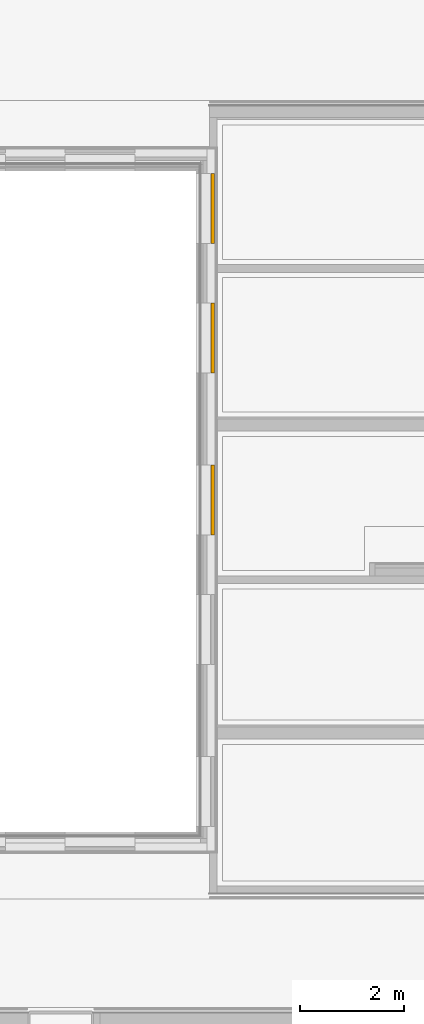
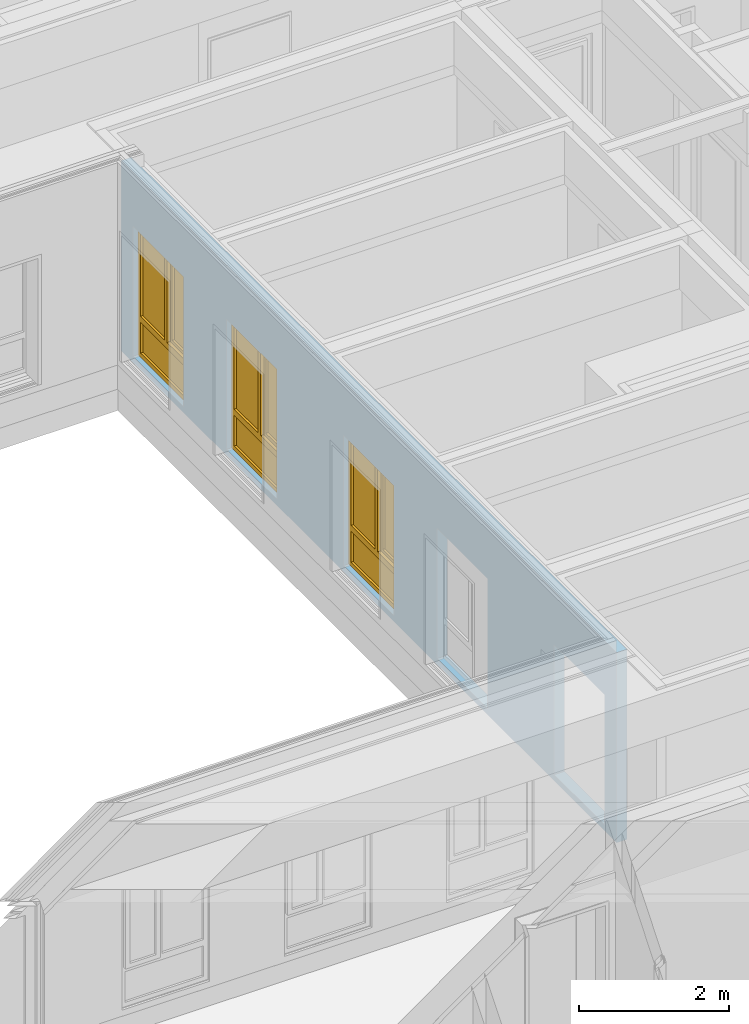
# One storey, part 133 of 207: 3 windows, 5 openings, plus 1 element that does not belong to this part.
"""IFC4 building model written with IfcOpenShell, lengths in metres."""

from ifc_helpers import new_model, entity, si_unit, converted_unit, derived_unit, frame, frame_2d, origin, origin_with_axes, place, context, subcontext, project, spatial, polyline, rectangle, outline, extrude, closed_shell, open_shell, surface_model, source, transform, mapped, material, element, fill, save


model = new_model("IFC4")

# Units and contexts
model_context = context("Model", 3, precision=1e-05, world=origin())
body_context = subcontext(model_context, "Body", "Model", "MODEL_VIEW")
ifc_project = project(units=[si_unit("LENGTHUNIT", "METRE"), si_unit("AREAUNIT", "SQUARE_METRE"), si_unit("VOLUMEUNIT", "CUBIC_METRE"), si_unit("MASSUNIT", "GRAM", prefix="KILO"), converted_unit("PLANEANGLEUNIT", "DEGREE", entity("IfcPlaneAngleMeasure", 0.0174532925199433), si_unit("PLANEANGLEUNIT", "RADIAN"), dimensions=[0, 0, 0, 0, 0, 0, 0]), derived_unit("THERMALTRANSMITTANCEUNIT", [(si_unit("POWERUNIT", "WATT"), 1), (si_unit("THERMODYNAMICTEMPERATUREUNIT", "KELVIN"), -1), (si_unit("LENGTHUNIT", "METRE"), -2)]), derived_unit("VOLUMETRICFLOWRATEUNIT", [(si_unit("LENGTHUNIT", "METRE"), 3), (converted_unit("TIMEUNIT", "hour", entity("IfcTimeMeasure", 3600.0), si_unit("TIMEUNIT", "SECOND"), dimensions=[0, 0, 1, 0, 0, 0, 0]), -1), (si_unit("LENGTHUNIT", "METRE"), -1)])], contexts=[model_context])

# Site, building, storey
site_placement = place(None, origin())
site = spatial("IfcSite", under=ifc_project, at=site_placement, Name="Psychiatrie Neubau Wunstorf", CompositionType="ELEMENT")
building_placement = place(site_placement, origin())
building = spatial("IfcBuilding", under=site, at=building_placement, Name="Neubau H2 Stationsgebäude", CompositionType="ELEMENT")
storey_placement = place(building_placement, frame((0.0, 0.0, -0.2)))
storey = spatial("IfcBuildingStorey", under=building, at=storey_placement, Name="H2 Ebene 0", CompositionType="ELEMENT", Elevation=-0.2)

# Wall, openings, windows
ifc_material = material(Name="WA-HD")
wall_placement = place(storey_placement, frame((90.325, 8.61000000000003, 0.5), z_axis=(0.0, 0.0, 1.0), x_axis=(0.0, 1.0, 0.0)))
wall = element("IfcWall", 1, at=wall_placement, inside=storey, material=ifc_material, context=body_context, shape_type="SweptSolid", body=[
    extrude(rectangle(XDim=13.23, YDim=0.16, at=frame_2d((6.615, 0.08), x_axis=(1.0, 0.0))), origin_with_axes(), (0.0, 0.0, 1.0), 3.1),
])
opening_1_placement = place(wall_placement, frame((12.9146, 0.16, 0.1), z_axis=(0.0, -1.0, 0.0), x_axis=(0.0, 0.0, 1.0)))
opening_1 = element("IfcOpeningElement", 2, at=opening_1_placement, cuts=wall, Name="Fensteröffnung", ObjectType="Opening", context=body_context, shape_type="SweptSolid", body=[
    extrude(outline(polyline([(2.12, 1.35), (2.12, 0.0), (0.0, 0.0), (0.0, 1.35), (2.12, 1.35)])), origin_with_axes(), (0.0, 0.0, 1.0), 0.16),
])
opening_2_placement = place(wall_placement, frame((10.4146, 0.16, 0.1), z_axis=(0.0, -1.0, 0.0), x_axis=(0.0, 0.0, 1.0)))
opening_2 = element("IfcOpeningElement", 3, at=opening_2_placement, cuts=wall, Name="Fensteröffnung", ObjectType="Opening", context=body_context, shape_type="SweptSolid", body=[
    extrude(outline(polyline([(2.12, 1.35), (2.12, 0.0), (0.0, 0.0), (0.0, 1.35), (2.12, 1.35)])), origin_with_axes(), (0.0, 0.0, 1.0), 0.16),
])
opening_3_placement = place(wall_placement, frame((7.28999999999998, 0.16, 0.1), z_axis=(0.0, -1.0, 0.0), x_axis=(0.0, 0.0, 1.0)))
opening_3 = element("IfcOpeningElement", 4, at=opening_3_placement, cuts=wall, Name="Fensteröffnung", ObjectType="Opening", context=body_context, shape_type="SweptSolid", body=[
    extrude(outline(polyline([(2.12, 1.35), (2.12, 0.0), (0.0, 0.0), (0.0, 1.35), (2.12, 1.35)])), origin_with_axes(), (0.0, 0.0, 1.0), 0.16),
])
opening_4_placement = place(wall_placement, frame((4.78999999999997, 0.16, 0.1), z_axis=(0.0, -1.0, 0.0), x_axis=(0.0, 0.0, 1.0)))
element("IfcOpeningElement", 5, at=opening_4_placement, cuts=wall, Name="Fensteröffnung", ObjectType="Opening", context=body_context, shape_type="SweptSolid", body=[
    extrude(outline(polyline([(2.12, 1.35), (2.12, 0.0), (0.0, 0.0), (0.0, 1.35), (2.12, 1.35)])), origin_with_axes(), (0.0, 0.0, 1.0), 0.16),
])
opening_5_placement = place(wall_placement, frame((1.66569999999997, 0.16, 0.1), z_axis=(0.0, -1.0, 0.0), x_axis=(0.0, 0.0, 1.0)))
element("IfcOpeningElement", 6, at=opening_5_placement, cuts=wall, Name="Fensteröffnung", ObjectType="Opening", context=body_context, shape_type="SweptSolid", body=[
    extrude(outline(polyline([(2.12, 1.35), (2.12, 0.0), (0.0, 0.0), (0.0, 1.35), (2.12, 1.35)])), origin_with_axes(), (0.0, 0.0, 1.0), 0.16),
])
shared_shape_1 = source(origin_with_axes(), body_context, "Body", "SurfaceModel", [
    surface_model("IfcShellBasedSurfaceModel", [(0.0, 0.0, 2.12), (0.0699999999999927, 0.0, 2.12), (0.0699999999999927, 0.0, 0.0), (0.0, 0.0, 0.0), (0.0, 0.0700000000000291, 0.0), (0.0699999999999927, 0.0700000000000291, 0.0), (0.0699999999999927, 0.0700000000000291, 2.12), (0.0, 0.0700000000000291, 2.12)], [closed_shell([[[0, 1, 2, 3]], [[4, 5, 6, 7]], [[3, 4, 7, 0]], [[2, 5, 4, 3]], [[1, 6, 5, 2]], [[0, 7, 6, 1]]], orient=[[False], [False], [False], [False], [False], [False]])]),
    surface_model("IfcShellBasedSurfaceModel", [(1.27999999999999, 0.0, 2.12), (1.34999999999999, 0.0, 2.12), (1.34999999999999, 0.0, 0.0), (1.27999999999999, 0.0, 0.0), (1.27999999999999, 0.0700000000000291, 0.0), (1.34999999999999, 0.0700000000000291, 0.0), (1.34999999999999, 0.0700000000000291, 2.12), (1.27999999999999, 0.0700000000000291, 2.12)], [closed_shell([[[0, 1, 2, 3]], [[4, 5, 6, 7]], [[3, 4, 7, 0]], [[2, 5, 4, 3]], [[1, 6, 5, 2]], [[0, 7, 6, 1]]], orient=[[False], [False], [False], [False], [False], [False]])]),
    surface_model("IfcShellBasedSurfaceModel", [(0.0699999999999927, 0.0, 0.07), (1.27999999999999, 0.0, 0.07), (1.27999999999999, 0.0, 0.0), (0.0699999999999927, 0.0, 0.0), (0.0699999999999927, 0.0700000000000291, 0.0), (1.27999999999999, 0.0700000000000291, 0.0), (1.27999999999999, 0.0700000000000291, 0.07), (0.0699999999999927, 0.0700000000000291, 0.07)], [closed_shell([[[0, 1, 2, 3]], [[4, 5, 6, 7]], [[3, 4, 7, 0]], [[2, 5, 4, 3]], [[1, 6, 5, 2]], [[0, 7, 6, 1]]], orient=[[False], [False], [False], [False], [False], [False]])]),
    surface_model("IfcShellBasedSurfaceModel", [(0.0699999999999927, 0.0, 2.12), (1.27999999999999, 0.0, 2.12), (1.27999999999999, 0.0, 2.05), (0.0699999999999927, 0.0, 2.05), (0.0699999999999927, 0.0700000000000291, 2.05), (1.27999999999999, 0.0700000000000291, 2.05), (1.27999999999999, 0.0700000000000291, 2.12), (0.0699999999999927, 0.0700000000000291, 2.12)], [closed_shell([[[0, 1, 2, 3]], [[4, 5, 6, 7]], [[3, 4, 7, 0]], [[2, 5, 4, 3]], [[1, 6, 5, 2]], [[0, 7, 6, 1]]], orient=[[False], [False], [False], [False], [False], [False]])]),
    surface_model("IfcShellBasedSurfaceModel", [(0.0699999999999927, 0.0, 0.67), (1.27999999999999, 0.0, 0.67), (1.27999999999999, 0.0, 0.57), (0.0699999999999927, 0.0, 0.57), (0.0699999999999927, 0.0700000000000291, 0.57), (1.27999999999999, 0.0700000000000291, 0.57), (1.27999999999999, 0.0700000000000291, 0.67), (0.0699999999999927, 0.0700000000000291, 0.67)], [closed_shell([[[0, 1, 2, 3]], [[4, 5, 6, 7]], [[3, 4, 7, 0]], [[2, 5, 4, 3]], [[1, 6, 5, 2]], [[0, 7, 6, 1]]], orient=[[False], [False], [False], [False], [False], [False]])]),
    surface_model("IfcShellBasedSurfaceModel", [(0.0699999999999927, 0.0350000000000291, 0.07), (0.0699999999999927, 0.0350000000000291, 0.57), (1.27999999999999, 0.0350000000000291, 0.57), (1.27999999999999, 0.0350000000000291, 0.07)], [open_shell([[[0, 1, 2, 3]]], orient=[[False]])]),
    surface_model("IfcShellBasedSurfaceModel", [(0.569999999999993, 0.0, 2.05), (0.639999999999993, 0.0, 2.05), (0.639999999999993, 0.0, 0.67), (0.569999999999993, 0.0, 0.67), (0.569999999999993, 0.0700000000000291, 0.67), (0.639999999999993, 0.0700000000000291, 0.67), (0.639999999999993, 0.0700000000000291, 2.05), (0.569999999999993, 0.0700000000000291, 2.05)], [closed_shell([[[0, 1, 2, 3]], [[4, 5, 6, 7]], [[3, 4, 7, 0]], [[2, 5, 4, 3]], [[1, 6, 5, 2]], [[0, 7, 6, 1]]], orient=[[False], [False], [False], [False], [False], [False]])]),
    surface_model("IfcShellBasedSurfaceModel", [(0.0499999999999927, -0.0499999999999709, 2.07), (0.119999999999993, -0.0499999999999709, 2.07), (0.119999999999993, -0.0499999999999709, 0.65), (0.0499999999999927, -0.0499999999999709, 0.65), (0.0499999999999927, 0.0200000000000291, 0.65), (0.119999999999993, 0.0200000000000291, 0.65), (0.119999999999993, 0.0200000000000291, 2.07), (0.0499999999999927, 0.0200000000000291, 2.07)], [closed_shell([[[0, 1, 2, 3]], [[4, 5, 6, 7]], [[3, 4, 7, 0]], [[2, 5, 4, 3]], [[1, 6, 5, 2]], [[0, 7, 6, 1]]], orient=[[False], [False], [False], [False], [False], [False]])]),
    surface_model("IfcShellBasedSurfaceModel", [(0.519999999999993, -0.0499999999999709, 2.07), (0.589999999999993, -0.0499999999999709, 2.07), (0.589999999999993, -0.0499999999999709, 0.65), (0.519999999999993, -0.0499999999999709, 0.65), (0.519999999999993, 0.0200000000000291, 0.65), (0.589999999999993, 0.0200000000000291, 0.65), (0.589999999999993, 0.0200000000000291, 2.07), (0.519999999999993, 0.0200000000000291, 2.07)], [closed_shell([[[0, 1, 2, 3]], [[4, 5, 6, 7]], [[3, 4, 7, 0]], [[2, 5, 4, 3]], [[1, 6, 5, 2]], [[0, 7, 6, 1]]], orient=[[False], [False], [False], [False], [False], [False]])]),
    surface_model("IfcShellBasedSurfaceModel", [(0.119999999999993, -0.0499999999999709, 0.72), (0.519999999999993, -0.0499999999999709, 0.72), (0.519999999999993, -0.0499999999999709, 0.65), (0.119999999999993, -0.0499999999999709, 0.65), (0.119999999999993, 0.0200000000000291, 0.65), (0.519999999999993, 0.0200000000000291, 0.65), (0.519999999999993, 0.0200000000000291, 0.72), (0.119999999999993, 0.0200000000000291, 0.72)], [closed_shell([[[0, 1, 2, 3]], [[4, 5, 6, 7]], [[3, 4, 7, 0]], [[2, 5, 4, 3]], [[1, 6, 5, 2]], [[0, 7, 6, 1]]], orient=[[False], [False], [False], [False], [False], [False]])]),
    surface_model("IfcShellBasedSurfaceModel", [(0.119999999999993, -0.0499999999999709, 2.07), (0.519999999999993, -0.0499999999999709, 2.07), (0.519999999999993, -0.0499999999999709, 2.0), (0.119999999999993, -0.0499999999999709, 2.0), (0.119999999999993, 0.0200000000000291, 2.0), (0.519999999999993, 0.0200000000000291, 2.0), (0.519999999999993, 0.0200000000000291, 2.07), (0.119999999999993, 0.0200000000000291, 2.07)], [closed_shell([[[0, 1, 2, 3]], [[4, 5, 6, 7]], [[3, 4, 7, 0]], [[2, 5, 4, 3]], [[1, 6, 5, 2]], [[0, 7, 6, 1]]], orient=[[False], [False], [False], [False], [False], [False]])]),
    surface_model("IfcShellBasedSurfaceModel", [(0.639999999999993, 0.0350000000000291, 0.67), (0.639999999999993, 0.0350000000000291, 2.05), (1.27999999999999, 0.0350000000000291, 2.05), (1.27999999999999, 0.0350000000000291, 0.67)], [open_shell([[[0, 1, 2, 3]]], orient=[[False]])]),
    surface_model("IfcShellBasedSurfaceModel", [(0.119999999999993, -0.0149999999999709, 0.72), (0.119999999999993, -0.0149999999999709, 2.0), (0.519999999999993, -0.0149999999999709, 2.0), (0.519999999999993, -0.0149999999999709, 0.72)], [open_shell([[[0, 1, 2, 3]]], orient=[[False]])]),
])
window_1_placement = place(opening_1_placement, frame((0.0, 1.35, 0.146), z_axis=(1.0, 0.0, 0.0), x_axis=(0.0, -1.0, 0.0)))
window_1 = element("IfcWindow", 7, at=window_1_placement, inside=storey, Name="Fenster", OverallHeight=2.12, OverallWidth=1.35, PartitioningType="USERDEFINED", PredefinedType="WINDOW", context=body_context, shape_type="MappedRepresentation", body=[
    mapped(shared_shape_1, transform((0.0, 0.0, 0.0), x_axis=(1.0, 0.0, 0.0), y_axis=(0.0, 1.0, 0.0), z_axis=(0.0, 0.0, 1.0), scale=1.0)),
])
fill(opening_1, window_1)
shared_shape_2 = source(origin_with_axes(), body_context, "Body", "SurfaceModel", [
    surface_model("IfcShellBasedSurfaceModel", [(0.0, 0.0, 2.12), (0.0699999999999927, 0.0, 2.12), (0.0699999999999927, 0.0, 0.0), (0.0, 0.0, 0.0), (0.0, 0.0700000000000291, 0.0), (0.0699999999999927, 0.0700000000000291, 0.0), (0.0699999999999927, 0.0700000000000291, 2.12), (0.0, 0.0700000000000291, 2.12)], [closed_shell([[[0, 1, 2, 3]], [[4, 5, 6, 7]], [[3, 4, 7, 0]], [[2, 5, 4, 3]], [[1, 6, 5, 2]], [[0, 7, 6, 1]]], orient=[[False], [False], [False], [False], [False], [False]])]),
    surface_model("IfcShellBasedSurfaceModel", [(1.27999999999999, 0.0, 2.12), (1.34999999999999, 0.0, 2.12), (1.34999999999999, 0.0, 0.0), (1.27999999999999, 0.0, 0.0), (1.27999999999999, 0.0700000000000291, 0.0), (1.34999999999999, 0.0700000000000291, 0.0), (1.34999999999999, 0.0700000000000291, 2.12), (1.27999999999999, 0.0700000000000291, 2.12)], [closed_shell([[[0, 1, 2, 3]], [[4, 5, 6, 7]], [[3, 4, 7, 0]], [[2, 5, 4, 3]], [[1, 6, 5, 2]], [[0, 7, 6, 1]]], orient=[[False], [False], [False], [False], [False], [False]])]),
    surface_model("IfcShellBasedSurfaceModel", [(0.0699999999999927, 0.0, 0.07), (1.27999999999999, 0.0, 0.07), (1.27999999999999, 0.0, 0.0), (0.0699999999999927, 0.0, 0.0), (0.0699999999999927, 0.0700000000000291, 0.0), (1.27999999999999, 0.0700000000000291, 0.0), (1.27999999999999, 0.0700000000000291, 0.07), (0.0699999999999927, 0.0700000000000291, 0.07)], [closed_shell([[[0, 1, 2, 3]], [[4, 5, 6, 7]], [[3, 4, 7, 0]], [[2, 5, 4, 3]], [[1, 6, 5, 2]], [[0, 7, 6, 1]]], orient=[[False], [False], [False], [False], [False], [False]])]),
    surface_model("IfcShellBasedSurfaceModel", [(0.0699999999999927, 0.0, 2.12), (1.27999999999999, 0.0, 2.12), (1.27999999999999, 0.0, 2.05), (0.0699999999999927, 0.0, 2.05), (0.0699999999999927, 0.0700000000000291, 2.05), (1.27999999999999, 0.0700000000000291, 2.05), (1.27999999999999, 0.0700000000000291, 2.12), (0.0699999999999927, 0.0700000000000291, 2.12)], [closed_shell([[[0, 1, 2, 3]], [[4, 5, 6, 7]], [[3, 4, 7, 0]], [[2, 5, 4, 3]], [[1, 6, 5, 2]], [[0, 7, 6, 1]]], orient=[[False], [False], [False], [False], [False], [False]])]),
    surface_model("IfcShellBasedSurfaceModel", [(0.0699999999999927, 0.0, 0.67), (1.27999999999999, 0.0, 0.67), (1.27999999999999, 0.0, 0.57), (0.0699999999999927, 0.0, 0.57), (0.0699999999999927, 0.0700000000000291, 0.57), (1.27999999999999, 0.0700000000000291, 0.57), (1.27999999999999, 0.0700000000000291, 0.67), (0.0699999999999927, 0.0700000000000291, 0.67)], [closed_shell([[[0, 1, 2, 3]], [[4, 5, 6, 7]], [[3, 4, 7, 0]], [[2, 5, 4, 3]], [[1, 6, 5, 2]], [[0, 7, 6, 1]]], orient=[[False], [False], [False], [False], [False], [False]])]),
    surface_model("IfcShellBasedSurfaceModel", [(0.0699999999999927, 0.0350000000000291, 0.07), (0.0699999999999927, 0.0350000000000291, 0.57), (1.27999999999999, 0.0350000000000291, 0.57), (1.27999999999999, 0.0350000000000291, 0.07)], [open_shell([[[0, 1, 2, 3]]], orient=[[False]])]),
    surface_model("IfcShellBasedSurfaceModel", [(0.569999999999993, 0.0, 2.05), (0.639999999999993, 0.0, 2.05), (0.639999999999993, 0.0, 0.67), (0.569999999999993, 0.0, 0.67), (0.569999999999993, 0.0700000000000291, 0.67), (0.639999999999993, 0.0700000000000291, 0.67), (0.639999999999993, 0.0700000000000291, 2.05), (0.569999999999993, 0.0700000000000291, 2.05)], [closed_shell([[[0, 1, 2, 3]], [[4, 5, 6, 7]], [[3, 4, 7, 0]], [[2, 5, 4, 3]], [[1, 6, 5, 2]], [[0, 7, 6, 1]]], orient=[[False], [False], [False], [False], [False], [False]])]),
    surface_model("IfcShellBasedSurfaceModel", [(0.0499999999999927, -0.0499999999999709, 2.07), (0.119999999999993, -0.0499999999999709, 2.07), (0.119999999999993, -0.0499999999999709, 0.65), (0.0499999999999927, -0.0499999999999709, 0.65), (0.0499999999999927, 0.0200000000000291, 0.65), (0.119999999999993, 0.0200000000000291, 0.65), (0.119999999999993, 0.0200000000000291, 2.07), (0.0499999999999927, 0.0200000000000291, 2.07)], [closed_shell([[[0, 1, 2, 3]], [[4, 5, 6, 7]], [[3, 4, 7, 0]], [[2, 5, 4, 3]], [[1, 6, 5, 2]], [[0, 7, 6, 1]]], orient=[[False], [False], [False], [False], [False], [False]])]),
    surface_model("IfcShellBasedSurfaceModel", [(0.519999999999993, -0.0499999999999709, 2.07), (0.589999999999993, -0.0499999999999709, 2.07), (0.589999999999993, -0.0499999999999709, 0.65), (0.519999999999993, -0.0499999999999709, 0.65), (0.519999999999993, 0.0200000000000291, 0.65), (0.589999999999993, 0.0200000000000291, 0.65), (0.589999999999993, 0.0200000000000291, 2.07), (0.519999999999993, 0.0200000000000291, 2.07)], [closed_shell([[[0, 1, 2, 3]], [[4, 5, 6, 7]], [[3, 4, 7, 0]], [[2, 5, 4, 3]], [[1, 6, 5, 2]], [[0, 7, 6, 1]]], orient=[[False], [False], [False], [False], [False], [False]])]),
    surface_model("IfcShellBasedSurfaceModel", [(0.119999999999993, -0.0499999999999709, 0.72), (0.519999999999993, -0.0499999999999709, 0.72), (0.519999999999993, -0.0499999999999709, 0.65), (0.119999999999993, -0.0499999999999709, 0.65), (0.119999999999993, 0.0200000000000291, 0.65), (0.519999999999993, 0.0200000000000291, 0.65), (0.519999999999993, 0.0200000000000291, 0.72), (0.119999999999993, 0.0200000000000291, 0.72)], [closed_shell([[[0, 1, 2, 3]], [[4, 5, 6, 7]], [[3, 4, 7, 0]], [[2, 5, 4, 3]], [[1, 6, 5, 2]], [[0, 7, 6, 1]]], orient=[[False], [False], [False], [False], [False], [False]])]),
    surface_model("IfcShellBasedSurfaceModel", [(0.119999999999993, -0.0499999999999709, 2.07), (0.519999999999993, -0.0499999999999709, 2.07), (0.519999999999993, -0.0499999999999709, 2.0), (0.119999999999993, -0.0499999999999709, 2.0), (0.119999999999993, 0.0200000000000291, 2.0), (0.519999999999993, 0.0200000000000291, 2.0), (0.519999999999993, 0.0200000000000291, 2.07), (0.119999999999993, 0.0200000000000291, 2.07)], [closed_shell([[[0, 1, 2, 3]], [[4, 5, 6, 7]], [[3, 4, 7, 0]], [[2, 5, 4, 3]], [[1, 6, 5, 2]], [[0, 7, 6, 1]]], orient=[[False], [False], [False], [False], [False], [False]])]),
    surface_model("IfcShellBasedSurfaceModel", [(0.639999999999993, 0.0350000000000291, 0.67), (0.639999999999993, 0.0350000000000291, 2.05), (1.27999999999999, 0.0350000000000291, 2.05), (1.27999999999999, 0.0350000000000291, 0.67)], [open_shell([[[0, 1, 2, 3]]], orient=[[False]])]),
    surface_model("IfcShellBasedSurfaceModel", [(0.119999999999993, -0.0149999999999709, 0.72), (0.119999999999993, -0.0149999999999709, 2.0), (0.519999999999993, -0.0149999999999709, 2.0), (0.519999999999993, -0.0149999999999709, 0.72)], [open_shell([[[0, 1, 2, 3]]], orient=[[False]])]),
])
window_2_placement = place(opening_2_placement, frame((0.0, 1.35, 0.146), z_axis=(1.0, 0.0, 0.0), x_axis=(0.0, -1.0, 0.0)))
window_2 = element("IfcWindow", 8, at=window_2_placement, inside=storey, Name="Fenster", OverallHeight=2.12, OverallWidth=1.35, PartitioningType="USERDEFINED", PredefinedType="WINDOW", context=body_context, shape_type="MappedRepresentation", body=[
    mapped(shared_shape_2, transform((0.0, 0.0, 0.0), x_axis=(1.0, 0.0, 0.0), y_axis=(0.0, 1.0, 0.0), z_axis=(0.0, 0.0, 1.0), scale=1.0)),
])
fill(opening_2, window_2)
shared_shape_3 = source(origin_with_axes(), body_context, "Body", "SurfaceModel", [
    surface_model("IfcShellBasedSurfaceModel", [(0.0, 0.0, 2.12), (0.0699999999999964, 0.0, 2.12), (0.0699999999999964, 0.0, 0.0), (0.0, 0.0, 0.0), (0.0, 0.0700000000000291, 0.0), (0.0699999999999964, 0.0700000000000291, 0.0), (0.0699999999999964, 0.0700000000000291, 2.12), (0.0, 0.0700000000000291, 2.12)], [closed_shell([[[0, 1, 2, 3]], [[4, 5, 6, 7]], [[3, 4, 7, 0]], [[2, 5, 4, 3]], [[1, 6, 5, 2]], [[0, 7, 6, 1]]], orient=[[False], [False], [False], [False], [False], [False]])]),
    surface_model("IfcShellBasedSurfaceModel", [(1.28, 0.0, 2.12), (1.35, 0.0, 2.12), (1.35, 0.0, 0.0), (1.28, 0.0, 0.0), (1.28, 0.0700000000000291, 0.0), (1.35, 0.0700000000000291, 0.0), (1.35, 0.0700000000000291, 2.12), (1.28, 0.0700000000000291, 2.12)], [closed_shell([[[0, 1, 2, 3]], [[4, 5, 6, 7]], [[3, 4, 7, 0]], [[2, 5, 4, 3]], [[1, 6, 5, 2]], [[0, 7, 6, 1]]], orient=[[False], [False], [False], [False], [False], [False]])]),
    surface_model("IfcShellBasedSurfaceModel", [(0.0699999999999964, 0.0, 0.07), (1.28, 0.0, 0.07), (1.28, 0.0, 0.0), (0.0699999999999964, 0.0, 0.0), (0.0699999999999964, 0.0700000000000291, 0.0), (1.28, 0.0700000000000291, 0.0), (1.28, 0.0700000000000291, 0.07), (0.0699999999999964, 0.0700000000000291, 0.07)], [closed_shell([[[0, 1, 2, 3]], [[4, 5, 6, 7]], [[3, 4, 7, 0]], [[2, 5, 4, 3]], [[1, 6, 5, 2]], [[0, 7, 6, 1]]], orient=[[False], [False], [False], [False], [False], [False]])]),
    surface_model("IfcShellBasedSurfaceModel", [(0.0699999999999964, 0.0, 2.12), (1.28, 0.0, 2.12), (1.28, 0.0, 2.05), (0.0699999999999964, 0.0, 2.05), (0.0699999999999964, 0.0700000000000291, 2.05), (1.28, 0.0700000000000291, 2.05), (1.28, 0.0700000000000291, 2.12), (0.0699999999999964, 0.0700000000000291, 2.12)], [closed_shell([[[0, 1, 2, 3]], [[4, 5, 6, 7]], [[3, 4, 7, 0]], [[2, 5, 4, 3]], [[1, 6, 5, 2]], [[0, 7, 6, 1]]], orient=[[False], [False], [False], [False], [False], [False]])]),
    surface_model("IfcShellBasedSurfaceModel", [(0.0699999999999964, 0.0, 0.67), (1.28, 0.0, 0.67), (1.28, 0.0, 0.57), (0.0699999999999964, 0.0, 0.57), (0.0699999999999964, 0.0700000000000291, 0.57), (1.28, 0.0700000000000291, 0.57), (1.28, 0.0700000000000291, 0.67), (0.0699999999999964, 0.0700000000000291, 0.67)], [closed_shell([[[0, 1, 2, 3]], [[4, 5, 6, 7]], [[3, 4, 7, 0]], [[2, 5, 4, 3]], [[1, 6, 5, 2]], [[0, 7, 6, 1]]], orient=[[False], [False], [False], [False], [False], [False]])]),
    surface_model("IfcShellBasedSurfaceModel", [(0.0699999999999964, 0.0350000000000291, 0.07), (0.0699999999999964, 0.0350000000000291, 0.57), (1.28, 0.0350000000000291, 0.57), (1.28, 0.0350000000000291, 0.07)], [open_shell([[[0, 1, 2, 3]]], orient=[[False]])]),
    surface_model("IfcShellBasedSurfaceModel", [(0.569999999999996, 0.0, 2.05), (0.639999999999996, 0.0, 2.05), (0.639999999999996, 0.0, 0.67), (0.569999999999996, 0.0, 0.67), (0.569999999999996, 0.0700000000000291, 0.67), (0.639999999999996, 0.0700000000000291, 0.67), (0.639999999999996, 0.0700000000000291, 2.05), (0.569999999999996, 0.0700000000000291, 2.05)], [closed_shell([[[0, 1, 2, 3]], [[4, 5, 6, 7]], [[3, 4, 7, 0]], [[2, 5, 4, 3]], [[1, 6, 5, 2]], [[0, 7, 6, 1]]], orient=[[False], [False], [False], [False], [False], [False]])]),
    surface_model("IfcShellBasedSurfaceModel", [(0.0499999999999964, -0.0499999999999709, 2.07), (0.119999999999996, -0.0499999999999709, 2.07), (0.119999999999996, -0.0499999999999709, 0.65), (0.0499999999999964, -0.0499999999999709, 0.65), (0.0499999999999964, 0.0200000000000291, 0.65), (0.119999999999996, 0.0200000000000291, 0.65), (0.119999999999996, 0.0200000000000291, 2.07), (0.0499999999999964, 0.0200000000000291, 2.07)], [closed_shell([[[0, 1, 2, 3]], [[4, 5, 6, 7]], [[3, 4, 7, 0]], [[2, 5, 4, 3]], [[1, 6, 5, 2]], [[0, 7, 6, 1]]], orient=[[False], [False], [False], [False], [False], [False]])]),
    surface_model("IfcShellBasedSurfaceModel", [(0.519999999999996, -0.0499999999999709, 2.07), (0.589999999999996, -0.0499999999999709, 2.07), (0.589999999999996, -0.0499999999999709, 0.65), (0.519999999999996, -0.0499999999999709, 0.65), (0.519999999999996, 0.0200000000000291, 0.65), (0.589999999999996, 0.0200000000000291, 0.65), (0.589999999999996, 0.0200000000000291, 2.07), (0.519999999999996, 0.0200000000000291, 2.07)], [closed_shell([[[0, 1, 2, 3]], [[4, 5, 6, 7]], [[3, 4, 7, 0]], [[2, 5, 4, 3]], [[1, 6, 5, 2]], [[0, 7, 6, 1]]], orient=[[False], [False], [False], [False], [False], [False]])]),
    surface_model("IfcShellBasedSurfaceModel", [(0.119999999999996, -0.0499999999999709, 0.72), (0.519999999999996, -0.0499999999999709, 0.72), (0.519999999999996, -0.0499999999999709, 0.65), (0.119999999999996, -0.0499999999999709, 0.65), (0.119999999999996, 0.0200000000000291, 0.65), (0.519999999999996, 0.0200000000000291, 0.65), (0.519999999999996, 0.0200000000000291, 0.72), (0.119999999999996, 0.0200000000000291, 0.72)], [closed_shell([[[0, 1, 2, 3]], [[4, 5, 6, 7]], [[3, 4, 7, 0]], [[2, 5, 4, 3]], [[1, 6, 5, 2]], [[0, 7, 6, 1]]], orient=[[False], [False], [False], [False], [False], [False]])]),
    surface_model("IfcShellBasedSurfaceModel", [(0.119999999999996, -0.0499999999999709, 2.07), (0.519999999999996, -0.0499999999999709, 2.07), (0.519999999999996, -0.0499999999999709, 2.0), (0.119999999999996, -0.0499999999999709, 2.0), (0.119999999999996, 0.0200000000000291, 2.0), (0.519999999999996, 0.0200000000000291, 2.0), (0.519999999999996, 0.0200000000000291, 2.07), (0.119999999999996, 0.0200000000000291, 2.07)], [closed_shell([[[0, 1, 2, 3]], [[4, 5, 6, 7]], [[3, 4, 7, 0]], [[2, 5, 4, 3]], [[1, 6, 5, 2]], [[0, 7, 6, 1]]], orient=[[False], [False], [False], [False], [False], [False]])]),
    surface_model("IfcShellBasedSurfaceModel", [(0.639999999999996, 0.0350000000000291, 0.67), (0.639999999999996, 0.0350000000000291, 2.05), (1.28, 0.0350000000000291, 2.05), (1.28, 0.0350000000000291, 0.67)], [open_shell([[[0, 1, 2, 3]]], orient=[[False]])]),
    surface_model("IfcShellBasedSurfaceModel", [(0.119999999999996, -0.0149999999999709, 0.72), (0.119999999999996, -0.0149999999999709, 2.0), (0.519999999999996, -0.0149999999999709, 2.0), (0.519999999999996, -0.0149999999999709, 0.72)], [open_shell([[[0, 1, 2, 3]]], orient=[[False]])]),
])
window_3_placement = place(opening_3_placement, frame((0.0, 1.35, 0.146), z_axis=(1.0, 0.0, 0.0), x_axis=(0.0, -1.0, 0.0)))
window_3 = element("IfcWindow", 9, at=window_3_placement, inside=storey, Name="Fenster", OverallHeight=2.12, OverallWidth=1.35, PartitioningType="USERDEFINED", PredefinedType="WINDOW", context=body_context, shape_type="MappedRepresentation", body=[
    mapped(shared_shape_3, transform((0.0, 0.0, 0.0), x_axis=(1.0, 0.0, 0.0), y_axis=(0.0, 1.0, 0.0), z_axis=(0.0, 0.0, 1.0), scale=1.0)),
])
fill(opening_3, window_3)

save(model, "model.ifc")
